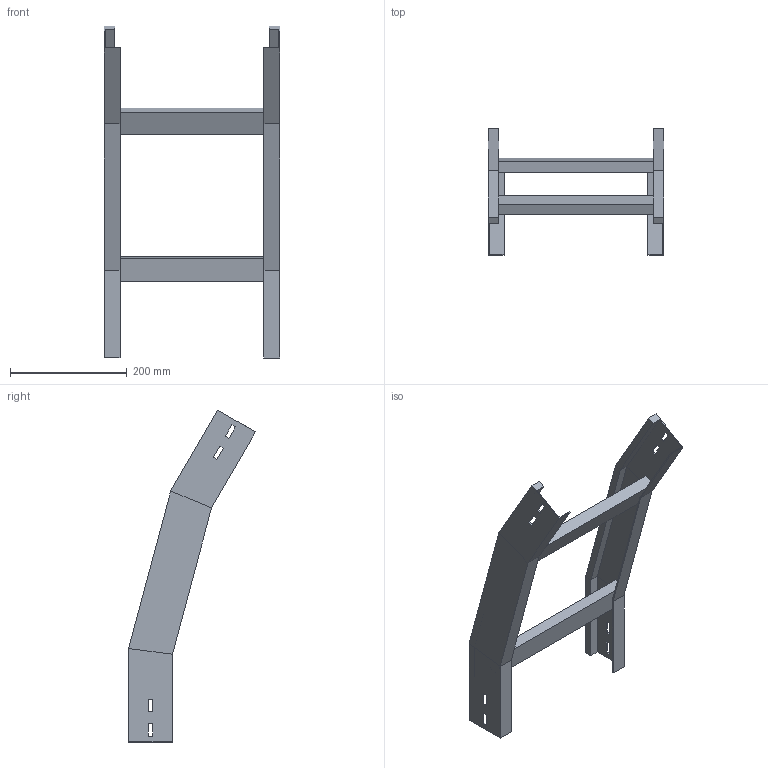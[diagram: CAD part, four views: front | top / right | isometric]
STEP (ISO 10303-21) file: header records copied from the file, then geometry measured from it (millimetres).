
FILE_DESCRIPTION (( 'STEP AP214' ), '1' );
FILE_NAME ('35B5C300.step', '2025-02-21T14:49:15', ( '' ), ( '' ), 'SwSTEP 2.0', 'SolidWorks 2023', '' );
FILE_SCHEMA (( 'AUTOMOTIVE_DESIGN' ));
Length unit declared in the file: millimetre
Products named in the file (3): TRAVERSINO_300; LONGH.DISCESA_30°_H75_R500; 35B5C300
Assembly tree (5 placements, depth 2):
  35B5C300
    LONGH.DISCESA_30°_H75_R500  x2
    TRAVERSINO_300  x3
Bounding box: 300 x 217.03 x 567.58 mm (x, y, z)
Volume: 1175002.1 mm3; surface area: 384648.5 mm2
Topology: 5 solids, 5 shells, 102 faces, 244 edges, 152 vertices
Faces by surface type: plane 102
Entity records: 1480 total; most frequent: CARTESIAN_POINT 244, ORIENTED_EDGE 232, DIRECTION 228, EDGE_CURVE 116, VECTOR 116, LINE 116, VERTEX_POINT 72, EDGE_LOOP 56
